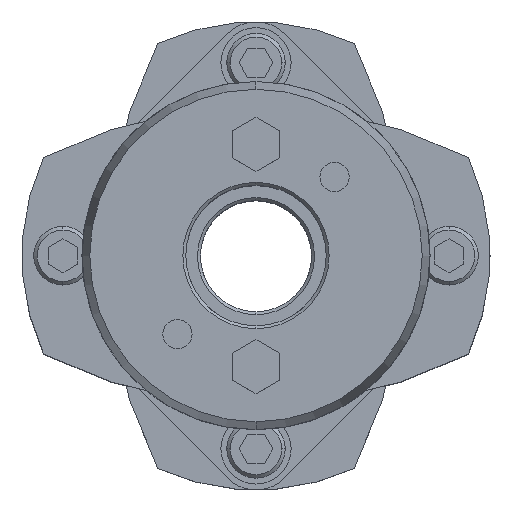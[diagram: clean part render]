
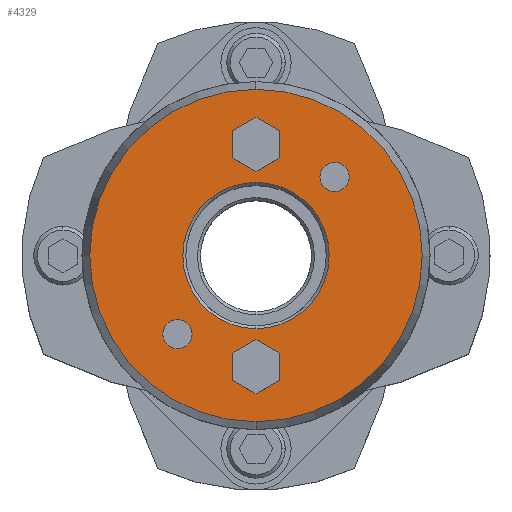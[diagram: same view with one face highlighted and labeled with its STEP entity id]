
A CAD part, top view. The second image highlights one B-rep face of the part: STEP entity #4329.
In plain terms, the highlighted planar face has unit normal (0, 0, 1).
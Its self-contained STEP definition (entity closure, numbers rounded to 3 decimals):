
#2291=CARTESIAN_POINT('',(0.,12.5,45.25));
#2292=VERTEX_POINT('',#2291);
#2308=CARTESIAN_POINT('',(0.,-12.5,45.25));
#2309=VERTEX_POINT('',#2308);
#2316=CARTESIAN_POINT('',(0.,0.,45.25));
#2317=DIRECTION('',(0.0,0.0,1.0));
#2318=DIRECTION('',(0.,1.0,0.0));
#2319=AXIS2_PLACEMENT_3D('',#2316,#2317,#2318);
#2320=CIRCLE('',#2319,12.5);
#2321=EDGE_CURVE('',#2309,#2292,#2320,.T.);
#2437=CARTESIAN_POINT('',(0.,-28.41,45.25));
#2438=VERTEX_POINT('',#2437);
#2447=CARTESIAN_POINT('',(0.,28.41,45.25));
#2448=VERTEX_POINT('',#2447);
#2449=CARTESIAN_POINT('',(0.,0.,45.25));
#2450=DIRECTION('',(0.0,0.0,-1.0));
#2451=DIRECTION('',(0.,-1.0,0.0));
#2452=AXIS2_PLACEMENT_3D('',#2449,#2450,#2451);
#2453=CIRCLE('',#2452,28.41);
#2454=EDGE_CURVE('',#2438,#2448,#2453,.T.);
#2623=CARTESIAN_POINT('',(13.435,15.935,45.25));
#2624=VERTEX_POINT('',#2623);
#2640=CARTESIAN_POINT('',(13.435,10.935,45.25));
#2641=VERTEX_POINT('',#2640);
#2648=CARTESIAN_POINT('',(13.435,13.435,45.25));
#2649=DIRECTION('',(0.0,0.0,-1.0));
#2650=DIRECTION('',(0.,1.0,0.0));
#2651=AXIS2_PLACEMENT_3D('',#2648,#2649,#2650);
#2652=CIRCLE('',#2651,2.5);
#2653=EDGE_CURVE('',#2624,#2641,#2652,.T.);
#2665=CARTESIAN_POINT('',(-13.435,-10.935,45.25));
#2666=VERTEX_POINT('',#2665);
#2682=CARTESIAN_POINT('',(-13.435,-15.935,45.25));
#2683=VERTEX_POINT('',#2682);
#2690=CARTESIAN_POINT('',(-13.435,-13.435,45.25));
#2691=DIRECTION('',(0.0,0.0,-1.0));
#2692=DIRECTION('',(0.,1.0,0.0));
#2693=AXIS2_PLACEMENT_3D('',#2690,#2691,#2692);
#2694=CIRCLE('',#2693,2.5);
#2695=EDGE_CURVE('',#2666,#2683,#2694,.T.);
#3455=CARTESIAN_POINT('',(0.,-14.381,45.25));
#3456=VERTEX_POINT('',#3455);
#3463=CARTESIAN_POINT('',(-4.,-16.691,45.25));
#3464=VERTEX_POINT('',#3463);
#3465=CARTESIAN_POINT('',(-4.,-16.691,45.25));
#3466=DIRECTION('',(0.866,0.5,0.0));
#3467=VECTOR('',#3466,4.619);
#3468=LINE('',#3465,#3467);
#3469=EDGE_CURVE('',#3464,#3456,#3468,.T.);
#3493=CARTESIAN_POINT('',(4.,-16.691,45.25));
#3494=VERTEX_POINT('',#3493);
#3501=CARTESIAN_POINT('',(0.,-14.381,45.25));
#3502=DIRECTION('',(0.866,-0.5,0.0));
#3503=VECTOR('',#3502,4.619);
#3504=LINE('',#3501,#3503);
#3505=EDGE_CURVE('',#3456,#3494,#3504,.T.);
#3524=CARTESIAN_POINT('',(4.,-21.309,45.25));
#3525=VERTEX_POINT('',#3524);
#3532=CARTESIAN_POINT('',(4.,-16.691,45.25));
#3533=DIRECTION('',(0.,-1.0,0.0));
#3534=VECTOR('',#3533,4.619);
#3535=LINE('',#3532,#3534);
#3536=EDGE_CURVE('',#3494,#3525,#3535,.T.);
#3555=CARTESIAN_POINT('',(0.,-23.619,45.25));
#3556=VERTEX_POINT('',#3555);
#3563=CARTESIAN_POINT('',(4.,-21.309,45.25));
#3564=DIRECTION('',(-0.866,-0.5,0.0));
#3565=VECTOR('',#3564,4.619);
#3566=LINE('',#3563,#3565);
#3567=EDGE_CURVE('',#3525,#3556,#3566,.T.);
#3586=CARTESIAN_POINT('',(-4.,-21.309,45.25));
#3587=VERTEX_POINT('',#3586);
#3594=CARTESIAN_POINT('',(0.,-23.619,45.25));
#3595=DIRECTION('',(-0.866,0.5,0.0));
#3596=VECTOR('',#3595,4.619);
#3597=LINE('',#3594,#3596);
#3598=EDGE_CURVE('',#3556,#3587,#3597,.T.);
#3616=CARTESIAN_POINT('',(-4.,-21.309,45.25));
#3617=DIRECTION('',(0.,1.0,0.0));
#3618=VECTOR('',#3617,4.619);
#3619=LINE('',#3616,#3618);
#3620=EDGE_CURVE('',#3587,#3464,#3619,.T.);
#3655=CARTESIAN_POINT('',(0.,23.619,45.25));
#3656=VERTEX_POINT('',#3655);
#3663=CARTESIAN_POINT('',(-4.,21.309,45.25));
#3664=VERTEX_POINT('',#3663);
#3665=CARTESIAN_POINT('',(-4.,21.309,45.25));
#3666=DIRECTION('',(0.866,0.5,0.0));
#3667=VECTOR('',#3666,4.619);
#3668=LINE('',#3665,#3667);
#3669=EDGE_CURVE('',#3664,#3656,#3668,.T.);
#3693=CARTESIAN_POINT('',(4.,21.309,45.25));
#3694=VERTEX_POINT('',#3693);
#3701=CARTESIAN_POINT('',(0.,23.619,45.25));
#3702=DIRECTION('',(0.866,-0.5,0.0));
#3703=VECTOR('',#3702,4.619);
#3704=LINE('',#3701,#3703);
#3705=EDGE_CURVE('',#3656,#3694,#3704,.T.);
#3724=CARTESIAN_POINT('',(4.,16.691,45.25));
#3725=VERTEX_POINT('',#3724);
#3732=CARTESIAN_POINT('',(4.,21.309,45.25));
#3733=DIRECTION('',(0.,-1.0,0.0));
#3734=VECTOR('',#3733,4.619);
#3735=LINE('',#3732,#3734);
#3736=EDGE_CURVE('',#3694,#3725,#3735,.T.);
#3755=CARTESIAN_POINT('',(0.,14.381,45.25));
#3756=VERTEX_POINT('',#3755);
#3763=CARTESIAN_POINT('',(4.,16.691,45.25));
#3764=DIRECTION('',(-0.866,-0.5,0.0));
#3765=VECTOR('',#3764,4.619);
#3766=LINE('',#3763,#3765);
#3767=EDGE_CURVE('',#3725,#3756,#3766,.T.);
#3786=CARTESIAN_POINT('',(-4.,16.691,45.25));
#3787=VERTEX_POINT('',#3786);
#3794=CARTESIAN_POINT('',(0.,14.381,45.25));
#3795=DIRECTION('',(-0.866,0.5,0.0));
#3796=VECTOR('',#3795,4.619);
#3797=LINE('',#3794,#3796);
#3798=EDGE_CURVE('',#3756,#3787,#3797,.T.);
#3816=CARTESIAN_POINT('',(-4.,16.691,45.25));
#3817=DIRECTION('',(0.,1.0,0.0));
#3818=VECTOR('',#3817,4.619);
#3819=LINE('',#3816,#3818);
#3820=EDGE_CURVE('',#3787,#3664,#3819,.T.);
#3846=CARTESIAN_POINT('',(-13.435,-13.435,45.25));
#3847=DIRECTION('',(0.0,0.0,-1.0));
#3848=DIRECTION('',(0.,1.0,0.0));
#3849=AXIS2_PLACEMENT_3D('',#3846,#3847,#3848);
#3850=CIRCLE('',#3849,2.5);
#3851=EDGE_CURVE('',#2683,#2666,#3850,.T.);
#3880=CARTESIAN_POINT('',(13.435,13.435,45.25));
#3881=DIRECTION('',(0.0,0.0,-1.0));
#3882=DIRECTION('',(0.,1.0,0.0));
#3883=AXIS2_PLACEMENT_3D('',#3880,#3881,#3882);
#3884=CIRCLE('',#3883,2.5);
#3885=EDGE_CURVE('',#2641,#2624,#3884,.T.);
#4276=CARTESIAN_POINT('',(0.,0.,45.25));
#4277=DIRECTION('',(0.0,0.0,-1.0));
#4278=DIRECTION('',(0.,-1.0,0.0));
#4279=AXIS2_PLACEMENT_3D('',#4276,#4277,#4278);
#4280=CIRCLE('',#4279,28.41);
#4281=EDGE_CURVE('',#2448,#2438,#4280,.T.);
#4286=CARTESIAN_POINT('',(0.,2.364,45.25));
#4287=DIRECTION('',(0.0,0.0,1.0));
#4288=DIRECTION('',(0.,1.0,0.0));
#4289=AXIS2_PLACEMENT_3D('',#4286,#4287,#4288);
#4290=PLANE('',#4289);
#4291=ORIENTED_EDGE('',*,*,#4281,.F.);
#4292=ORIENTED_EDGE('',*,*,#2454,.F.);
#4293=EDGE_LOOP('',(#4291,#4292));
#4294=FACE_OUTER_BOUND('',#4293,.T.);
#4295=ORIENTED_EDGE('',*,*,#3469,.T.);
#4296=ORIENTED_EDGE('',*,*,#3505,.T.);
#4297=ORIENTED_EDGE('',*,*,#3536,.T.);
#4298=ORIENTED_EDGE('',*,*,#3567,.T.);
#4299=ORIENTED_EDGE('',*,*,#3598,.T.);
#4300=ORIENTED_EDGE('',*,*,#3620,.T.);
#4301=EDGE_LOOP('',(#4295,#4296,#4297,#4298,#4299,#4300));
#4302=FACE_BOUND('',#4301,.T.);
#4303=ORIENTED_EDGE('',*,*,#3669,.T.);
#4304=ORIENTED_EDGE('',*,*,#3705,.T.);
#4305=ORIENTED_EDGE('',*,*,#3736,.T.);
#4306=ORIENTED_EDGE('',*,*,#3767,.T.);
#4307=ORIENTED_EDGE('',*,*,#3798,.T.);
#4308=ORIENTED_EDGE('',*,*,#3820,.T.);
#4309=EDGE_LOOP('',(#4303,#4304,#4305,#4306,#4307,#4308));
#4310=FACE_BOUND('',#4309,.T.);
#4311=ORIENTED_EDGE('',*,*,#2695,.T.);
#4312=ORIENTED_EDGE('',*,*,#3851,.T.);
#4313=EDGE_LOOP('',(#4311,#4312));
#4314=FACE_BOUND('',#4313,.T.);
#4315=ORIENTED_EDGE('',*,*,#2653,.T.);
#4316=ORIENTED_EDGE('',*,*,#3885,.T.);
#4317=EDGE_LOOP('',(#4315,#4316));
#4318=FACE_BOUND('',#4317,.T.);
#4319=ORIENTED_EDGE('',*,*,#2321,.F.);
#4320=CARTESIAN_POINT('',(0.,0.,45.25));
#4321=DIRECTION('',(0.0,0.0,1.0));
#4322=DIRECTION('',(0.,1.0,0.0));
#4323=AXIS2_PLACEMENT_3D('',#4320,#4321,#4322);
#4324=CIRCLE('',#4323,12.5);
#4325=EDGE_CURVE('',#2292,#2309,#4324,.T.);
#4326=ORIENTED_EDGE('',*,*,#4325,.F.);
#4327=EDGE_LOOP('',(#4319,#4326));
#4328=FACE_BOUND('',#4327,.T.);
#4329=ADVANCED_FACE('',(#4294,#4302,#4310,#4314,#4318,#4328),#4290,.T.);
